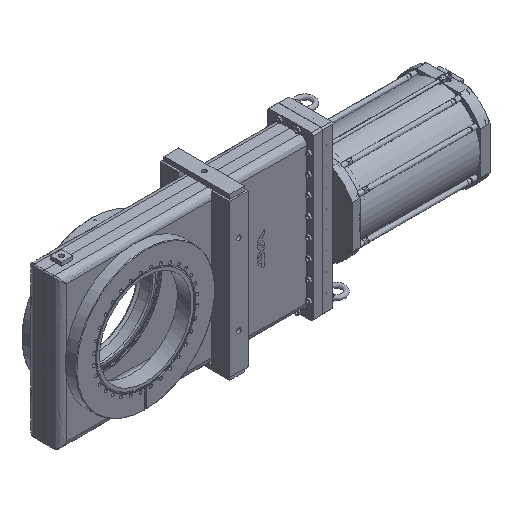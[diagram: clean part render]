
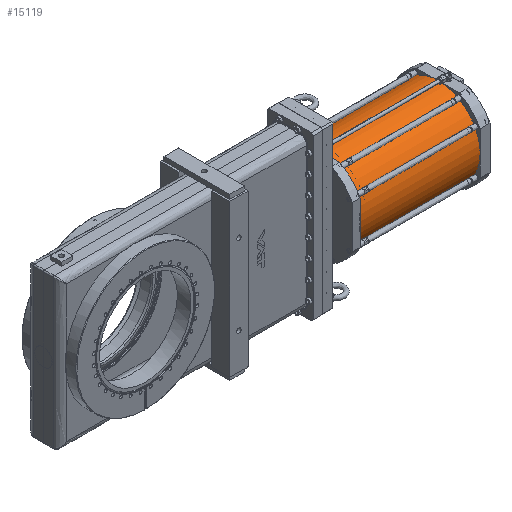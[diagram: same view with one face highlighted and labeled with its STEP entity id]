
A CAD part, isometric view. The second image highlights one B-rep face of the part: STEP entity #15119.
In plain terms, the highlighted free-form (B-spline) face has degree [2, 1] with [7, 2] control points.
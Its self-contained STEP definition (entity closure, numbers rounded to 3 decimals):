
#15044=CARTESIAN_POINT('V9',(328.5,115.0,0.0));
#15045=VERTEX_POINT('V9',#15044);
#15046=CARTESIAN_POINT('E19',(328.5,115.0,0.0));
#15047=CARTESIAN_POINT('E19',(328.5,
   115.,199.186));
#15048=CARTESIAN_POINT('E19',(328.5,
   -57.5,99.593));
#15049=CARTESIAN_POINT('E19',(328.5,
   -230.,0.));
#15050=CARTESIAN_POINT('E19',(328.5,
   -57.5,-99.593));
#15051=CARTESIAN_POINT('E19',(328.5,115.0,
   -199.186));
#15052=CARTESIAN_POINT('E19',(328.5,115.0,0.0));
#15060=(BOUNDED_CURVE()B_SPLINE_CURVE(2,(#15046,#15047,#15048,
   #15049,#15050,#15051,#15052),.CIRCULAR_ARC.,.T.,.U.)
   B_SPLINE_CURVE_WITH_KNOTS((3,2,2,3),(0.0,0.333,
   0.667,1.0),.UNSPECIFIED.)CURVE()
   GEOMETRIC_REPRESENTATION_ITEM()RATIONAL_B_SPLINE_CURVE((1.0,
   0.5,1.0,0.5,1.0,0.5,1.0)
   )REPRESENTATION_ITEM('E19'));
#15061=EDGE_CURVE('E19',#15045,#15045,#15060,.T.);
#15069=CARTESIAN_POINT('F9',(328.5,115.0,0.0));
#15070=CARTESIAN_POINT('F9',(328.5,115.0,
   -199.186));
#15071=CARTESIAN_POINT('F9',(328.5,-57.5,
   -99.593));
#15072=CARTESIAN_POINT('F9',(328.5,
   -230.,0.));
#15073=CARTESIAN_POINT('F9',(328.5,-57.5,
   99.593));
#15074=CARTESIAN_POINT('F9',(328.5,115.,
   199.186));
#15075=CARTESIAN_POINT('F9',(328.5,115.0,0.0));
#15076=CARTESIAN_POINT('F9',(0.0,115.0,0.0));
#15077=CARTESIAN_POINT('F9',(0.0,115.0,-199.186));
#15078=CARTESIAN_POINT('F9',(0.0,-57.5,
   -99.593));
#15079=CARTESIAN_POINT('F9',(0.,-230.,
   0.));
#15080=CARTESIAN_POINT('F9',(0.0,-57.5,
   99.593));
#15081=CARTESIAN_POINT('F9',(0.0,115.,
   199.186));
#15082=CARTESIAN_POINT('F9',(0.0,115.0,0.0));
#15090=(BOUNDED_SURFACE()B_SPLINE_SURFACE(2,1,((#15069,#15076),(
   #15070,#15077),(#15071,#15078),(#15072,#15079),(#15073,
   #15080),(#15074,#15081),(#15075,#15082)),.CYLINDRICAL_SURF.,
   .T.,.F.,.U.)B_SPLINE_SURFACE_WITH_KNOTS((3,2,2,3),(2,2),(0.0,
   1.213,2.425,3.638),(0.0,1.0),
   .UNSPECIFIED.)GEOMETRIC_REPRESENTATION_ITEM()
   RATIONAL_B_SPLINE_SURFACE(((1.0,1.0),(0.5,
   0.5),(1.0,1.0),(0.5,
   0.5),(1.0,1.0),(0.5,
   0.5),(1.0,1.0)))REPRESENTATION_ITEM('F9')SURFACE()
   );
#15091=CARTESIAN_POINT('V10',(0.,115.0,0.0));
#15092=VERTEX_POINT('V10',#15091);
#15093=CARTESIAN_POINT('E9',(0.,115.0,0.0));
#15094=CARTESIAN_POINT('E9',(328.5,115.0,0.0));
#15095=QUASI_UNIFORM_CURVE('E9',1,(#15093,#15094),.POLYLINE_FORM.,
   .F.,.U.);
#15096=EDGE_CURVE('E9',#15092,#15045,#15095,.T.);
#15097=ORIENTED_EDGE('E9',*,*,#15096,.F.);
#15098=CARTESIAN_POINT('E20',(0.0,115.0,0.0));
#15099=CARTESIAN_POINT('E20',(0.0,115.,
   199.186));
#15100=CARTESIAN_POINT('E20',(0.0,-57.5,
   99.593));
#15101=CARTESIAN_POINT('E20',(0.,-230.,
   0.));
#15102=CARTESIAN_POINT('E20',(0.0,-57.5,
   -99.593));
#15103=CARTESIAN_POINT('E20',(0.0,115.0,-199.186));
#15104=CARTESIAN_POINT('E20',(0.0,115.0,0.0));
#15112=(BOUNDED_CURVE()B_SPLINE_CURVE(2,(#15098,#15099,#15100,
   #15101,#15102,#15103,#15104),.CIRCULAR_ARC.,.T.,.U.)
   B_SPLINE_CURVE_WITH_KNOTS((3,2,2,3),(0.0,1.213,
   2.425,3.638),.UNSPECIFIED.)CURVE()
   GEOMETRIC_REPRESENTATION_ITEM()RATIONAL_B_SPLINE_CURVE((1.0,
   0.5,1.0,0.5,1.0,0.5,1.0)
   )REPRESENTATION_ITEM('E20'));
#15113=EDGE_CURVE('E20',#15092,#15092,#15112,.T.);
#15114=ORIENTED_EDGE('E20',*,*,#15113,.F.);
#15115=ORIENTED_EDGE('E9',*,*,#15096,.T.);
#15116=ORIENTED_EDGE('F8',*,*,#15061,.T.);
#15117=EDGE_LOOP('F9',(#15097,#15114,#15115,#15116));
#15118=FACE_OUTER_BOUND('F9',#15117,.F.);
#15119=ADVANCED_FACE('F9',(#15118),#15090,.T.);
